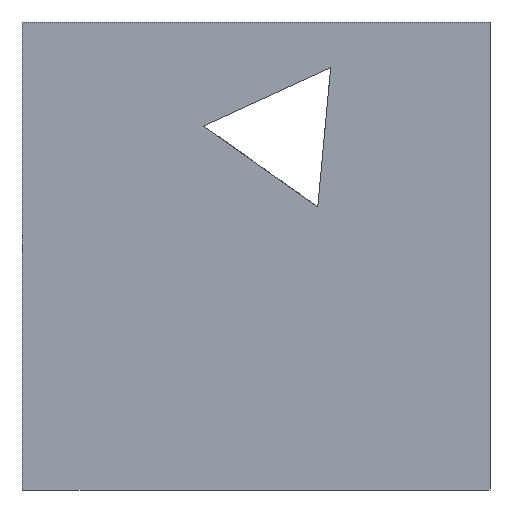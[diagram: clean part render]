
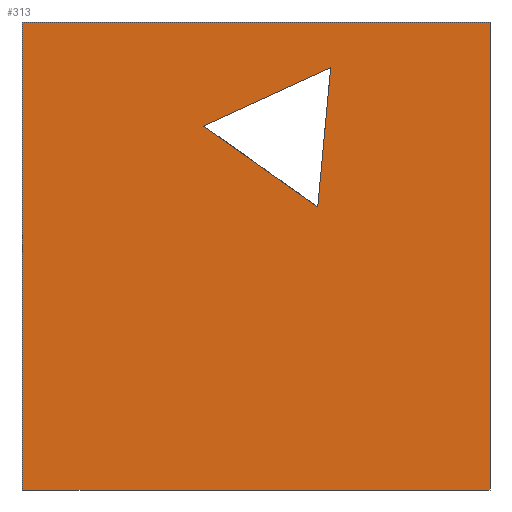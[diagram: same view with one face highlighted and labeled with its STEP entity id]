
A CAD part, left-side view. The second image highlights one B-rep face of the part: STEP entity #313.
In plain terms, the highlighted planar face has unit normal (-1, 0, 0).
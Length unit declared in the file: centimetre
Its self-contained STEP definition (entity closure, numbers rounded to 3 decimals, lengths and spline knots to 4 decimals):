
#45 = DIRECTION ( 'NONE',  ( 0., 0.816, 0.578 ) ) ;
#97 = LINE ( 'NONE', #615, #350 ) ;
#98 = ORIENTED_EDGE ( 'NONE', *, *, #1618, .T. ) ;
#124 = DIRECTION ( 'NONE',  ( 0., 0., -1. ) ) ;
#158 = ORIENTED_EDGE ( 'NONE', *, *, #577, .F. ) ;
#172 = VERTEX_POINT ( 'NONE', #794 ) ;
#195 = ORIENTED_EDGE ( 'NONE', *, *, #1246, .F. ) ;
#212 = VERTEX_POINT ( 'NONE', #1244 ) ;
#231 = DIRECTION ( 'NONE',  ( 1., 0., 0. ) ) ;
#248 = ORIENTED_EDGE ( 'NONE', *, *, #1456, .T. ) ;
#279 = ORIENTED_EDGE ( 'NONE', *, *, #1154, .T. ) ;
#313 = ADVANCED_FACE ( 'NONE', ( #587, #1118 ), #1621, .F. ) ;
#350 = VECTOR ( 'NONE', #1392, 100. ) ;
#388 = LINE ( 'NONE', #1307, #1241 ) ;
#421 = EDGE_LOOP ( 'NONE', ( #552, #158, #195, #98 ) ) ;
#428 = VECTOR ( 'NONE', #555, 100. ) ;
#472 = CARTESIAN_POINT ( 'NONE',  ( 0., 1000., 0. ) ) ;
#499 = DIRECTION ( 'NONE',  ( 0., -1., 0. ) ) ;
#552 = ORIENTED_EDGE ( 'NONE', *, *, #1385, .T. ) ;
#555 = DIRECTION ( 'NONE',  ( 0., 0., -1. ) ) ;
#577 = EDGE_CURVE ( 'NONE', #1042, #964, #1277, .T. ) ;
#587 = FACE_BOUND ( 'NONE', #1081, .T. ) ;
#589 = VECTOR ( 'NONE', #1596, 100. ) ;
#615 = CARTESIAN_POINT ( 'NONE',  ( 0., 1000., 1000. ) ) ;
#628 = CARTESIAN_POINT ( 'NONE',  ( 0., 0., 1000. ) ) ;
#630 = LINE ( 'NONE', #472, #1130 ) ;
#660 = LINE ( 'NONE', #679, #1624 ) ;
#679 = CARTESIAN_POINT ( 'NONE',  ( 0., 611.9377, 777.6052 ) ) ;
#690 = CARTESIAN_POINT ( 'NONE',  ( 0., 1000., 1000. ) ) ;
#696 = EDGE_CURVE ( 'NONE', #212, #172, #660, .T. ) ;
#712 = LINE ( 'NONE', #1095, #589 ) ;
#741 = CARTESIAN_POINT ( 'NONE',  ( 0., 0., 1000. ) ) ;
#767 = VERTEX_POINT ( 'NONE', #818 ) ;
#774 = DIRECTION ( 'NONE',  ( 0., 0.092, -0.996 ) ) ;
#794 = CARTESIAN_POINT ( 'NONE',  ( 0., 611.9377, 777.6052 ) ) ;
#818 = CARTESIAN_POINT ( 'NONE',  ( 0., 1000., 0. ) ) ;
#934 = VECTOR ( 'NONE', #124, 100. ) ;
#964 = VERTEX_POINT ( 'NONE', #1127 ) ;
#978 = CARTESIAN_POINT ( 'NONE',  ( 0., 1000., 1000. ) ) ;
#1017 = AXIS2_PLACEMENT_3D ( 'NONE', #1378, #231, #1462 ) ;
#1042 = VERTEX_POINT ( 'NONE', #741 ) ;
#1081 = EDGE_LOOP ( 'NONE', ( #248, #1172, #279 ) ) ;
#1095 = CARTESIAN_POINT ( 'NONE',  ( 0., 340.4162, 902.4589 ) ) ;
#1118 = FACE_OUTER_BOUND ( 'NONE', #421, .T. ) ;
#1127 = CARTESIAN_POINT ( 'NONE',  ( 0., 0., 0. ) ) ;
#1130 = VECTOR ( 'NONE', #499, 100. ) ;
#1154 = EDGE_CURVE ( 'NONE', #172, #1451, #712, .T. ) ;
#1172 = ORIENTED_EDGE ( 'NONE', *, *, #696, .T. ) ;
#1241 = VECTOR ( 'NONE', #774, 100. ) ;
#1244 = CARTESIAN_POINT ( 'NONE',  ( 0., 368.0505, 604.8875 ) ) ;
#1246 = EDGE_CURVE ( 'NONE', #1527, #1042, #97, .T. ) ;
#1277 = LINE ( 'NONE', #628, #934 ) ;
#1307 = CARTESIAN_POINT ( 'NONE',  ( 0., 368.0505, 604.8875 ) ) ;
#1328 = LINE ( 'NONE', #690, #428 ) ;
#1378 = CARTESIAN_POINT ( 'NONE',  ( 0., 1000., 1000. ) ) ;
#1385 = EDGE_CURVE ( 'NONE', #767, #964, #630, .T. ) ;
#1392 = DIRECTION ( 'NONE',  ( 0., -1., 0. ) ) ;
#1436 = CARTESIAN_POINT ( 'NONE',  ( 0., 340.4162, 902.4589 ) ) ;
#1451 = VERTEX_POINT ( 'NONE', #1436 ) ;
#1456 = EDGE_CURVE ( 'NONE', #1451, #212, #388, .T. ) ;
#1462 = DIRECTION ( 'NONE',  ( 0., 0., -1. ) ) ;
#1527 = VERTEX_POINT ( 'NONE', #978 ) ;
#1596 = DIRECTION ( 'NONE',  ( 0., -0.909, 0.418 ) ) ;
#1618 = EDGE_CURVE ( 'NONE', #1527, #767, #1328, .T. ) ;
#1621 = PLANE ( 'NONE',  #1017 ) ;
#1624 = VECTOR ( 'NONE', #45, 100. ) ;
